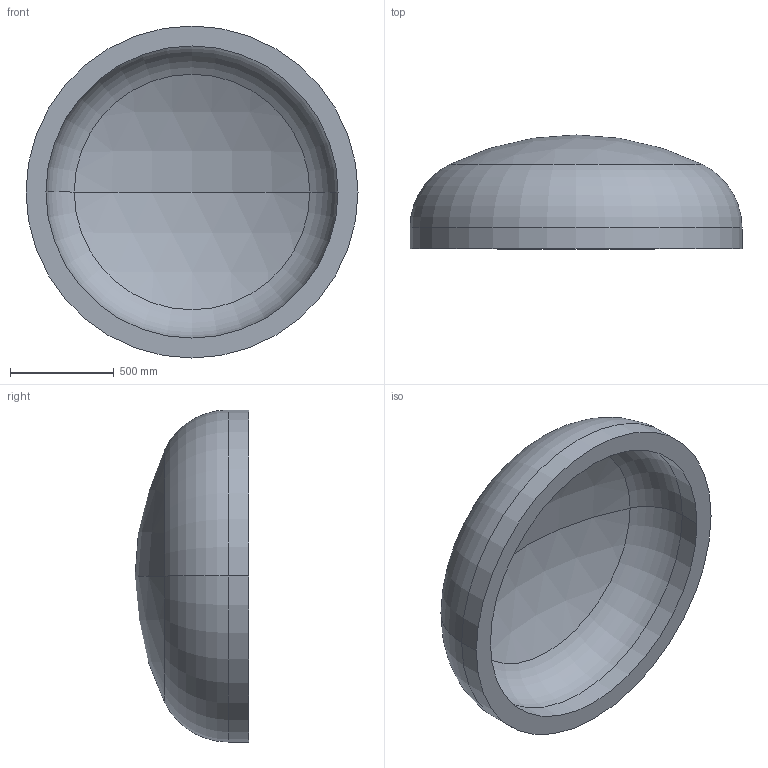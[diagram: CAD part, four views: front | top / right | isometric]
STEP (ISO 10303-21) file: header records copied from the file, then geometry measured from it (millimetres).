
FILE_DESCRIPTION (( 'STEP AP203' ), '1' );
FILE_NAME ('DIN 28013 Korbbogenform_-_Boden DIN 28013 - 1600 x 100 - I - s=96.step', '2016-07-01T11:28:57', ( '' ), ( '' ), 'SwSTEP 2.0', 'SolidWorks 2013', '' );
FILE_SCHEMA (( 'CONFIG_CONTROL_DESIGN' ));
Length unit declared in the file: millimetre
Products named in the file (1): DIN 28013 Korbbogenform_-_Boden DIN 28013 - 1600 x 100 - I - s=96
Bounding box: 1600 x 548.34 x 1600 mm (x, y, z)
Volume: 292714668.3 mm3; surface area: 6571118.4 mm2
Topology: 1 solids, 1 shells, 13 faces, 24 edges, 14 vertices
Faces by surface type: torus 4, cylinder 4, sphere 4, plane 1
Entity records: 407 total; most frequent: DIRECTION 72, CARTESIAN_POINT 52, ORIENTED_EDGE 48, AXIS2_PLACEMENT_3D 34, EDGE_CURVE 24, CIRCLE 20, VERTEX_POINT 14, EDGE_LOOP 14
